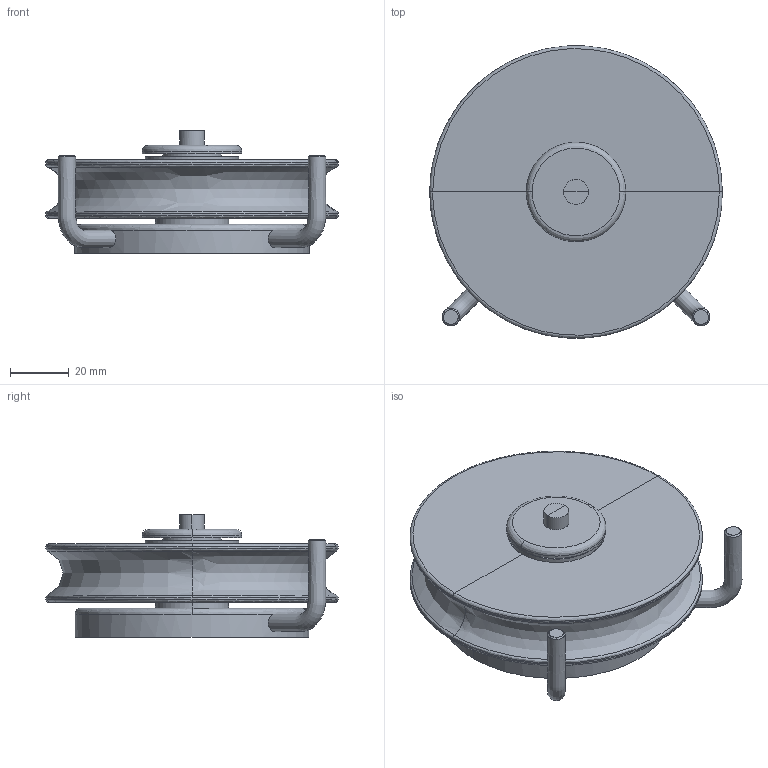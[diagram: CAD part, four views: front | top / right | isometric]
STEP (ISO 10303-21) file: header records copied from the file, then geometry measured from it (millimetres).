
FILE_DESCRIPTION(/* description */ (''),/* implementation_level */ '2;1');
FILE_NAME(/* name */ 'POULIE SIMPLE PLAT PONT D 100',/* time_stamp */ '2005-05-31T09:02:21+02:00',/* author */ (''),/* organization */ (''),/* preprocessor_version */ 'ST-DEVELOPER v8',/* originating_system */ '',/* authorisation */ '');
FILE_SCHEMA (('CONFIG_CONTROL_DESIGN'));
Length unit declared in the file: millimetre
Products named in the file (1): 1
Bounding box: 100 x 99.84 x 42 mm (x, y, z)
Volume: 188532.5 mm3; surface area: 48834.4 mm2
Topology: 8 solids, 8 shells, 160 faces, 348 edges, 189 vertices
Faces by surface type: bspline 160
Entity records: 7088 total; most frequent: CARTESIAN_POINT 5065, ORIENTED_EDGE 680, EDGE_CURVE 340, VERTEX_POINT 194, B_SPLINE_CURVE_WITH_KNOTS 180, EDGE_LOOP 173, ADVANCED_FACE 160, FACE_OUTER_BOUND 160
